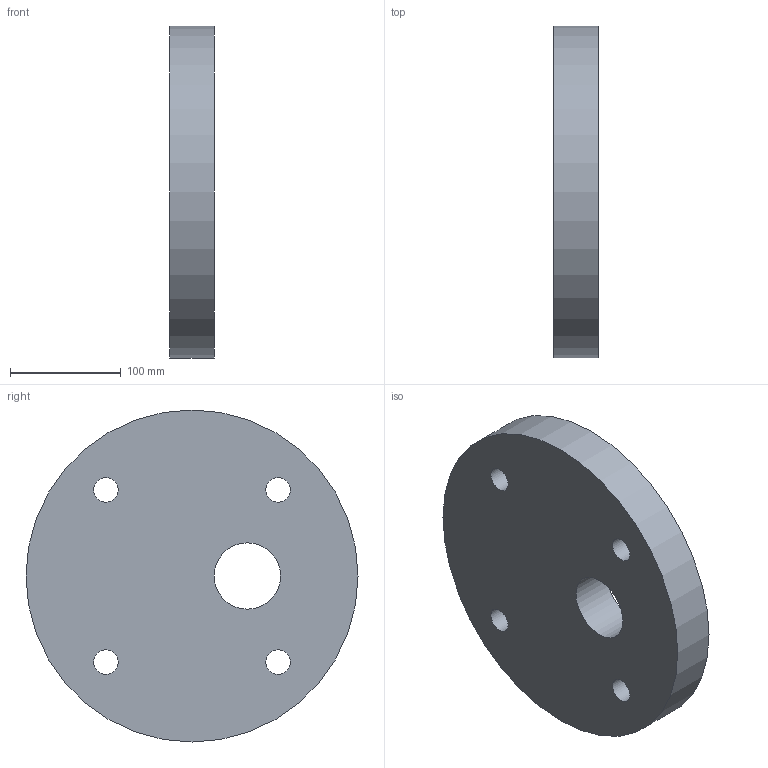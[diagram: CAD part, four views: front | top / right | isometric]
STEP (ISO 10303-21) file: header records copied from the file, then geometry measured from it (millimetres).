
FILE_DESCRIPTION(('Open CASCADE Model'),'2;1');
FILE_NAME('Open CASCADE Shape Model','2026-09-19T12:55:25',('Author'),( 'Open CASCADE'),'Open CASCADE STEP processor 7.9','Open CASCADE 7.9' ,'Unknown');
FILE_SCHEMA(('AUTOMOTIVE_DESIGN { 1 0 10303 214 1 1 1 1 }'));
Length unit declared in the file: millimetre
Products named in the file (1): Open CASCADE STEP translator 7.9 465
Bounding box: 40 x 300 x 300 mm (x, y, z)
Volume: 2653514.8 mm3; surface area: 188973.1 mm2
Topology: 1 solids, 1 shells, 8 faces, 18 edges, 12 vertices
Faces by surface type: cylinder 6, plane 2
Full cylindrical faces by diameter (mm): 22 x4, 60 x1, 300 x1
Entity records: 498 total; most frequent: DIRECTION 84, CARTESIAN_POINT 75, ORIENTED_EDGE 36, PCURVE 36, DEFINITIONAL_REPRESENTATION 36, LINE 30, VECTOR 30, CIRCLE 24
